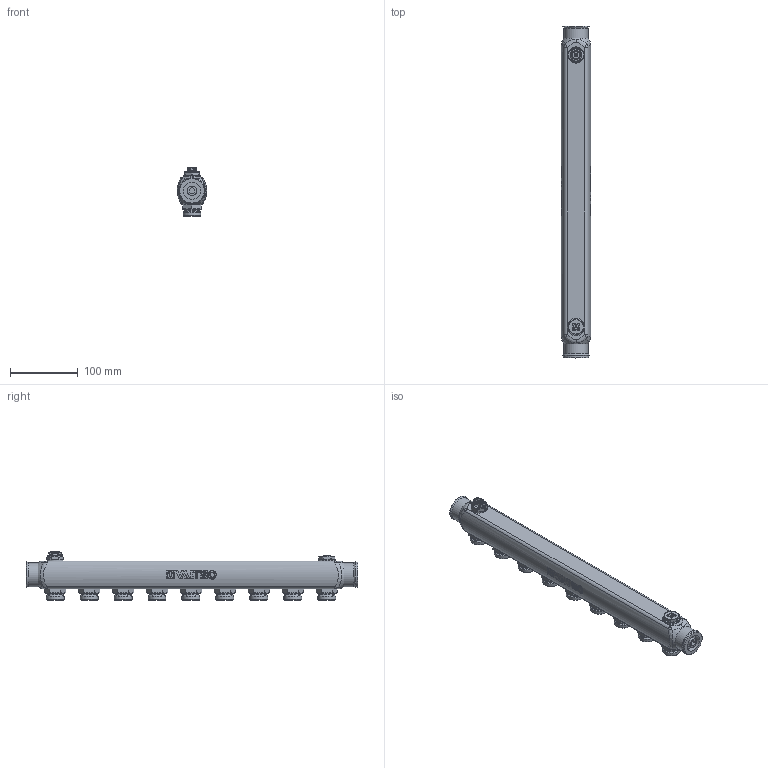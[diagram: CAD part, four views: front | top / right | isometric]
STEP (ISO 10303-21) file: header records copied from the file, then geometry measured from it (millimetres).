
FILE_DESCRIPTION(('STEP AP203'), '1');
FILE_NAME('覆.622621.036.000 捘 - VTc.505.SS.060509', '2024-08-30T06:29:49', ('Boss'), (''), 'C3D Converter', 'C3D Toolkit', '');
FILE_SCHEMA(('CONFIG_CONTROL_DESIGN'));
Length unit declared in the file: millimetre
Products named in the file (1): ВР.622621.036.000 СБ
Bounding box: 43 x 488.5 x 71.1 mm (x, y, z)
Volume: 689856.8 mm3; surface area: 196636.3 mm2
Topology: 1 solids, 31 shells, 920 faces, 2195 edges, 1372 vertices
Faces by surface type: plane 357, cylinder 247, cone 127, bspline 96, torus 93
Full cylindrical faces by diameter (mm): 5 x1, 5.3 x1, 10.2 x1, 12.5 x9, 14 x1, 18.1 x9, 22 x1, 23.5 x9, 24 x1, 25.5 x1, 26 x1, 26.441 x9, 30.292 x1, 35.5 x2, 37 x1
Entity records: 62123 total; most frequent: CARTESIAN_POINT 42885, ORIENTED_EDGE 4084, DIRECTION 3536, EDGE_CURVE 2042, AXIS2_PLACEMENT_3D 1455, VERTEX_POINT 1377, EDGE_LOOP 1099, FACE_BOUND 941
